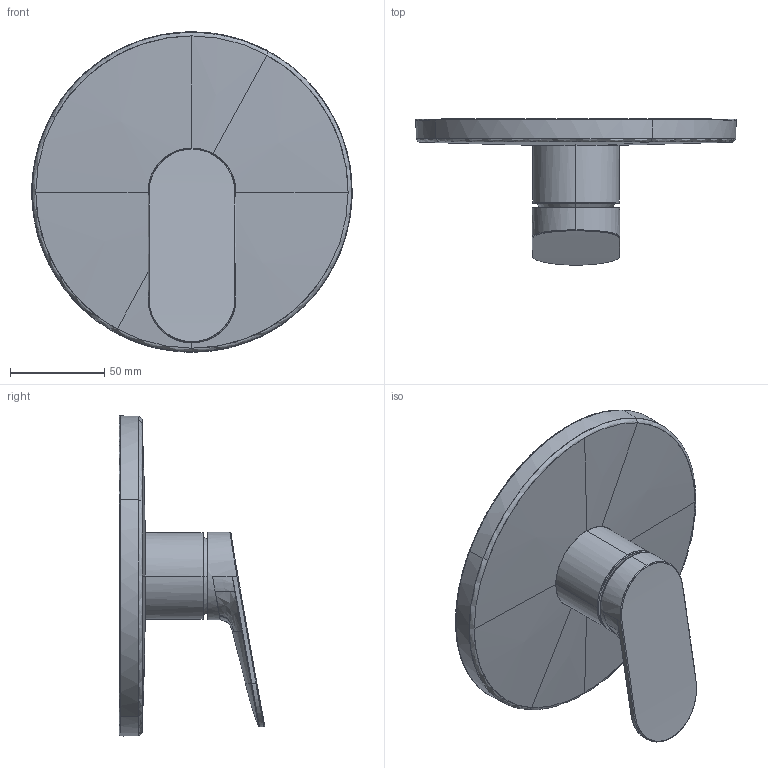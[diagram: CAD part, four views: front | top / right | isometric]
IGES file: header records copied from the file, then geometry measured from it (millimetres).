
Global section: file name: d:\users\matthias.isele\Desktop\Planungsdaten_erstellen\Armaturen\Wave\WA4210010010_WA4210010046\3D\WA4210010010_WA4210010046.igs; native system: Rhinoceros ( Sep 13 2016 ); preprocessor: Trout Lake IGES 012 Sep 13 2016; date: 230124.140655; units: millimetre
Bounding box: 169.96 x 77.31 x 169.95 mm (x, y, z)
Surface area: 69439.8 mm2 (no closed solid volume)
Topology: 0 solids, 0 shells, 616 faces, 3798 edges, 3760 vertices
Faces by surface type: bspline 616
